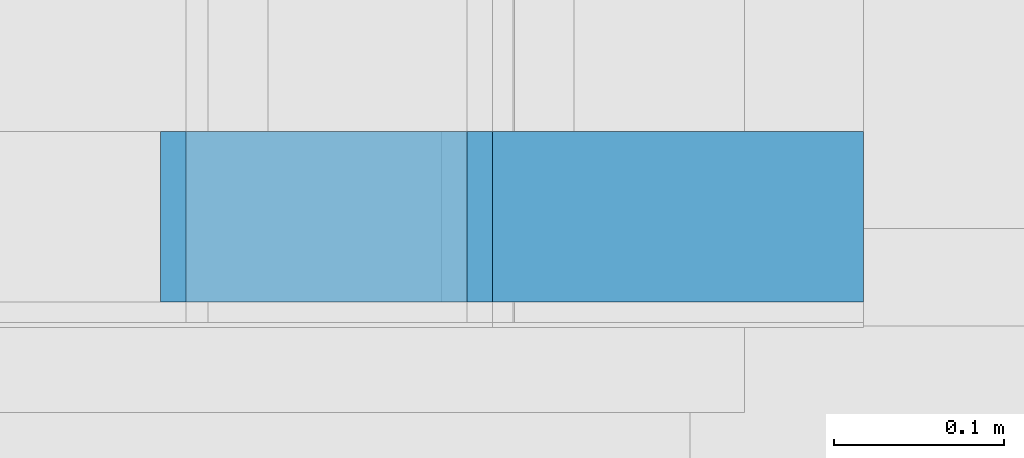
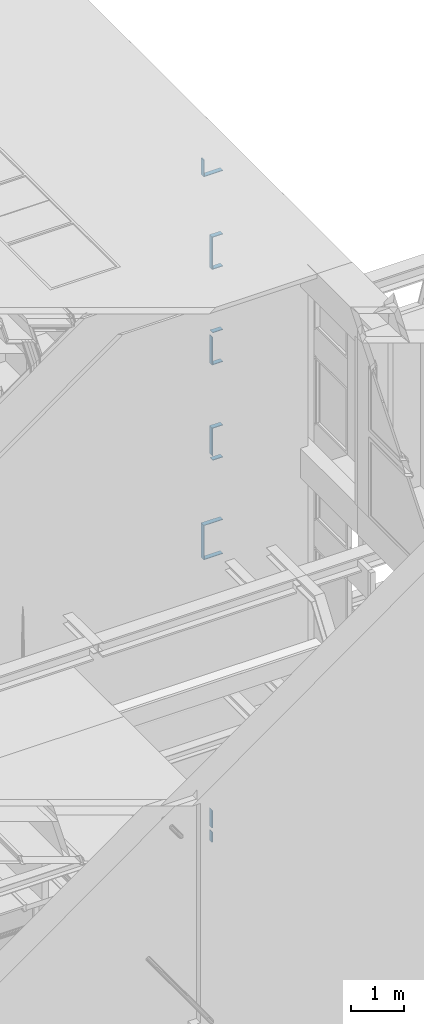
# One storey, part 226 of 583: 16 building element parts, 15 elements without a shape of their own.
"""IFC2X3 building model written with IfcOpenShell, lengths in metres."""

from ifc_helpers import new_model, entity, si_unit, converted_unit, derived_unit, money_unit, direction, frame, frame_2d, origin_with_axes, place, context, subcontext, project, spatial, polyline, rectangle, outline, extrude, material, type_object, element, aggregate, save


model = new_model("IFC2X3")

# Units and contexts
model_context = context("Model", 3, precision=1e-05, world=origin_with_axes(), true_north=direction((0.0, 1.0)))
body_context = subcontext(model_context, "Body", "Model", "MODEL_VIEW", scale=1.0)
ifc_project = project(units=[si_unit("LENGTHUNIT", "METRE"), si_unit("AREAUNIT", "SQUARE_METRE"), si_unit("VOLUMEUNIT", "CUBIC_METRE"), si_unit("ABSORBEDDOSEUNIT", "GRAY"), si_unit("AMOUNTOFSUBSTANCEUNIT", "MOLE"), si_unit("DOSEEQUIVALENTUNIT", "SIEVERT"), si_unit("ELECTRICCAPACITANCEUNIT", "FARAD"), si_unit("ELECTRICCHARGEUNIT", "COULOMB"), si_unit("ELECTRICCONDUCTANCEUNIT", "SIEMENS"), si_unit("ELECTRICCURRENTUNIT", "AMPERE"), si_unit("ELECTRICRESISTANCEUNIT", "OHM"), si_unit("ELECTRICVOLTAGEUNIT", "VOLT"), si_unit("ENERGYUNIT", "JOULE"), si_unit("FORCEUNIT", "NEWTON"), si_unit("FREQUENCYUNIT", "HERTZ"), si_unit("ILLUMINANCEUNIT", "LUX"), si_unit("INDUCTANCEUNIT", "HENRY"), si_unit("LUMINOUSFLUXUNIT", "LUMEN"), si_unit("LUMINOUSINTENSITYUNIT", "CANDELA"), si_unit("MAGNETICFLUXDENSITYUNIT", "TESLA"), si_unit("MAGNETICFLUXUNIT", "WEBER"), si_unit("MASSUNIT", "GRAM"), converted_unit("PLANEANGLEUNIT", "degree", entity("IfcReal", 0.0174532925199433), si_unit("PLANEANGLEUNIT", "RADIAN"), dimensions=[0, 0, 0, 0, 0, 0, 0]), si_unit("POWERUNIT", "WATT"), si_unit("PRESSUREUNIT", "PASCAL"), si_unit("RADIOACTIVITYUNIT", "BECQUEREL"), si_unit("SOLIDANGLEUNIT", "STERADIAN"), si_unit("THERMODYNAMICTEMPERATUREUNIT", "KELVIN"), si_unit("TIMEUNIT", "SECOND"), derived_unit("ACCELERATIONUNIT", [(si_unit("LENGTHUNIT", "METRE"), 1), (si_unit("TIMEUNIT", "SECOND"), -2)]), derived_unit("ANGULARVELOCITYUNIT", [(converted_unit("PLANEANGLEUNIT", "degree", entity("IfcReal", 0.0174532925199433), si_unit("PLANEANGLEUNIT", "RADIAN"), dimensions=[0, 0, 0, 0, 0, 0, 0]), 1), (si_unit("TIMEUNIT", "SECOND"), -1)]), derived_unit("CURVATUREUNIT", [(converted_unit("PLANEANGLEUNIT", "degree", entity("IfcReal", 0.0174532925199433), si_unit("PLANEANGLEUNIT", "RADIAN"), dimensions=[0, 0, 0, 0, 0, 0, 0]), 1), (si_unit("LENGTHUNIT", "METRE"), -1)]), derived_unit("DYNAMICVISCOSITYUNIT", [(si_unit("PRESSUREUNIT", "PASCAL"), 1), (si_unit("TIMEUNIT", "SECOND"), 1)]), derived_unit("HEATFLUXDENSITYUNIT", [(si_unit("POWERUNIT", "WATT"), 1), (si_unit("LENGTHUNIT", "METRE"), -2)]), derived_unit("HEATINGVALUEUNIT", [(si_unit("ENERGYUNIT", "JOULE"), 1), (si_unit("MASSUNIT", "GRAM"), -1)]), derived_unit("INTEGERCOUNTRATEUNIT", [(si_unit("TIMEUNIT", "SECOND"), -1)]), derived_unit("IONCONCENTRATIONUNIT", [(si_unit("MASSUNIT", "GRAM"), 1), (si_unit("VOLUMEUNIT", "CUBIC_METRE"), -1)]), derived_unit("ISOTHERMALMOISTURECAPACITYUNIT", [(si_unit("VOLUMEUNIT", "CUBIC_METRE"), 1), (si_unit("MASSUNIT", "GRAM"), -1)]), derived_unit("KINEMATICVISCOSITYUNIT", [(si_unit("AREAUNIT", "SQUARE_METRE"), 1), (si_unit("TIMEUNIT", "SECOND"), -1)]), derived_unit("LINEARFORCEUNIT", [(si_unit("FORCEUNIT", "NEWTON"), 1), (si_unit("LENGTHUNIT", "METRE"), -1)]), derived_unit("LINEARMOMENTUNIT", [(si_unit("FORCEUNIT", "NEWTON"), 1), (si_unit("LENGTHUNIT", "METRE"), -1)]), derived_unit("LINEARSTIFFNESSUNIT", [(si_unit("FORCEUNIT", "NEWTON"), 1), (si_unit("LENGTHUNIT", "METRE"), -1)]), derived_unit("LINEARVELOCITYUNIT", [(si_unit("LENGTHUNIT", "METRE"), 1), (si_unit("TIMEUNIT", "SECOND"), -1)]), derived_unit("LUMINOUSINTENSITYDISTRIBUTIONUNIT", [(si_unit("LUMINOUSINTENSITYUNIT", "CANDELA"), 1), (si_unit("LUMINOUSFLUXUNIT", "LUMEN"), -1)]), derived_unit("MASSDENSITYUNIT", [(si_unit("MASSUNIT", "GRAM"), 1), (si_unit("VOLUMEUNIT", "CUBIC_METRE"), -1)]), derived_unit("MASSFLOWRATEUNIT", [(si_unit("MASSUNIT", "GRAM"), 1), (si_unit("TIMEUNIT", "SECOND"), -1)]), derived_unit("MASSPERLENGTHUNIT", [(si_unit("MASSUNIT", "GRAM"), 1), (si_unit("LENGTHUNIT", "METRE"), -1)]), derived_unit("MODULUSOFELASTICITYUNIT", [(si_unit("FORCEUNIT", "NEWTON"), 1), (si_unit("AREAUNIT", "SQUARE_METRE"), -1)]), derived_unit("MODULUSOFLINEARSUBGRADEREACTIONUNIT", [(si_unit("FORCEUNIT", "NEWTON"), 1), (si_unit("LENGTHUNIT", "METRE"), -2)]), derived_unit("MODULUSOFROTATIONALSUBGRADEREACTIONUNIT", [(si_unit("FORCEUNIT", "NEWTON"), 1), (si_unit("LENGTHUNIT", "METRE"), 1)]), derived_unit("MODULUSOFSUBGRADEREACTIONUNIT", [(si_unit("FORCEUNIT", "NEWTON"), 1), (si_unit("VOLUMEUNIT", "CUBIC_METRE"), -1)]), derived_unit("MOISTUREDIFFUSIVITYUNIT", [(si_unit("VOLUMEUNIT", "CUBIC_METRE"), 1), (si_unit("TIMEUNIT", "SECOND"), -1)]), derived_unit("MOLECULARWEIGHTUNIT", [(si_unit("MASSUNIT", "GRAM"), 1), (si_unit("AMOUNTOFSUBSTANCEUNIT", "MOLE"), -1)]), derived_unit("PLANARFORCEUNIT", [(si_unit("FORCEUNIT", "NEWTON"), 1), (si_unit("LENGTHUNIT", "METRE"), -2)]), derived_unit("ROTATIONALFREQUENCYUNIT", [(si_unit("TIMEUNIT", "SECOND"), -1)]), derived_unit("ROTATIONALMASSUNIT", [(si_unit("MASSUNIT", "GRAM"), 1), (si_unit("LENGTHUNIT", "METRE"), 2)]), derived_unit("ROTATIONALSTIFFNESSUNIT", [(si_unit("FORCEUNIT", "NEWTON"), 1), (si_unit("LENGTHUNIT", "METRE"), 1), (converted_unit("PLANEANGLEUNIT", "degree", entity("IfcReal", 0.0174532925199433), si_unit("PLANEANGLEUNIT", "RADIAN"), dimensions=[0, 0, 0, 0, 0, 0, 0]), -1)]), derived_unit("SECTIONAREAINTEGRALUNIT", [(si_unit("LENGTHUNIT", "METRE"), 5)]), derived_unit("SECTIONMODULUSUNIT", [(si_unit("LENGTHUNIT", "METRE"), 3)]), derived_unit("SHEARMODULUSUNIT", [(si_unit("FORCEUNIT", "NEWTON"), 1), (si_unit("AREAUNIT", "SQUARE_METRE"), -1)]), derived_unit("SOUNDPOWERUNIT", [(si_unit("ENERGYUNIT", "JOULE"), 1), (si_unit("TIMEUNIT", "SECOND"), -1)]), derived_unit("SPECIFICHEATCAPACITYUNIT", [(si_unit("FORCEUNIT", "NEWTON"), 1), (si_unit("MASSUNIT", "GRAM"), -1), (si_unit("THERMODYNAMICTEMPERATUREUNIT", "KELVIN"), -1)]), derived_unit("TEMPERATUREGRADIENTUNIT", [(si_unit("THERMODYNAMICTEMPERATUREUNIT", "KELVIN"), 1), (si_unit("LENGTHUNIT", "METRE"), -1)]), derived_unit("THERMALADMITTANCEUNIT", [(si_unit("POWERUNIT", "WATT"), 1), (si_unit("AREAUNIT", "SQUARE_METRE"), -1), (si_unit("THERMODYNAMICTEMPERATUREUNIT", "KELVIN"), -1)]), derived_unit("THERMALCONDUCTANCEUNIT", [(si_unit("POWERUNIT", "WATT"), 1), (si_unit("LENGTHUNIT", "METRE"), -1), (si_unit("THERMODYNAMICTEMPERATUREUNIT", "KELVIN"), -1)]), derived_unit("THERMALEXPANSIONCOEFFICIENTUNIT", [(si_unit("THERMODYNAMICTEMPERATUREUNIT", "KELVIN"), -1)]), derived_unit("THERMALRESISTANCEUNIT", [(si_unit("AREAUNIT", "SQUARE_METRE"), 1), (si_unit("POWERUNIT", "WATT"), -1)]), derived_unit("THERMALTRANSMITTANCEUNIT", [(si_unit("POWERUNIT", "WATT"), 1), (si_unit("AREAUNIT", "SQUARE_METRE"), -1), (si_unit("THERMODYNAMICTEMPERATUREUNIT", "KELVIN"), -1)]), derived_unit("TORQUEUNIT", [(si_unit("FORCEUNIT", "NEWTON"), 1), (si_unit("LENGTHUNIT", "METRE"), 1)]), derived_unit("VAPORPERMEABILITYUNIT", [(si_unit("MASSUNIT", "GRAM"), 1), (si_unit("TIMEUNIT", "SECOND"), -1)]), derived_unit("VOLUMETRICFLOWRATEUNIT", [(si_unit("VOLUMEUNIT", "CUBIC_METRE"), 1), (si_unit("TIMEUNIT", "SECOND"), -1)]), derived_unit("WARPINGCONSTANTUNIT", [(si_unit("LENGTHUNIT", "METRE"), 6)]), derived_unit("WARPINGMOMENTUNIT", [(si_unit("FORCEUNIT", "NEWTON"), 1), (si_unit("LENGTHUNIT", "METRE"), 2)]), money_unit("GBP")], contexts=[model_context])

# Site, building, storey
site_placement = place(None, origin_with_axes())
site = spatial("IfcSite", under=ifc_project, at=site_placement, Name="Site", CompositionType="ELEMENT")
building_placement = place(site_placement, origin_with_axes())
building = spatial("IfcBuilding", under=site, at=building_placement, Name="Building01", CompositionType="ELEMENT")
storey_placement = place(building_placement, frame((0.0, 0.0, 20.78), z_axis=(0.0, 0.0, 1.0), x_axis=(1.0, 0.0, 0.0)))
storey = spatial("IfcBuildingStorey", under=building, at=storey_placement, Name="RL", CompositionType="ELEMENT", Elevation=20.78)

# Wall, building element part
wall_type = type_object("IfcWallType", Name="SHE_A-Walls_Type06d_ExternalWallInsulation_48mm", PredefinedType="NOTDEFINED")
wall_1_placement = place(storey_placement, frame((14.8, 8.64, -2.56), z_axis=(0.0, 1.0, 0.0), x_axis=(-1.0, 0.0, 0.0)))
wall_1 = element("IfcWall", 1, at=wall_1_placement, inside=storey, type_object=wall_type, Name="6D", ObjectType="SHE_A-Walls_Type06d_ExternalWallInsulation_48mm")
ifc_material = material(Name="A_BSUK_Walls_Timber")
building_element_part_1_placement = place(wall_1_placement, origin_with_axes())
building_element_part_1 = element("IfcBuildingElementPart", 2, at=building_element_part_1_placement, material=ifc_material, Name="2", context=body_context, shape_type="SweptSolid", body=[
    extrude(outline(polyline([(0.413, 0.063), (0.0, 0.063), (0.0, 0.048), (0.398, 0.048), (0.413, 0.063)])), frame((0.0, 0.0, 0.015), z_axis=(0.0, 0.0, 1.0), x_axis=(1.0, 0.0, 0.0)), (0.0, 0.0, 1.0), 0.1),
])
aggregate(wall_1, [building_element_part_1])

wall_2_placement = place(storey_placement, frame((14.45, 8.64, -2.56), z_axis=(0.0, 1.0, 0.0), x_axis=(0.0, 0.0, -1.0)))
wall_2 = element("IfcWall", 3, at=wall_2_placement, inside=storey, type_object=wall_type, Name="6D", ObjectType="SHE_A-Walls_Type06d_ExternalWallInsulation_48mm")
building_element_part_2_placement = place(wall_2_placement, origin_with_axes())
building_element_part_2 = element("IfcBuildingElementPart", 4, at=building_element_part_2_placement, material=ifc_material, Name="2", context=body_context, shape_type="SweptSolid", body=[
    extrude(outline(polyline([(0.733, 0.063), (-0.063, 0.063), (-0.048, 0.048), (0.718, 0.048), (0.733, 0.063)])), frame((0.0, 0.0, 0.015), z_axis=(0.0, 0.0, 1.0), x_axis=(1.0, 0.0, 0.0)), (0.0, 0.0, 1.0), 0.1),
])
aggregate(wall_2, [building_element_part_2])

wall_3_placement = place(storey_placement, frame((14.45, 8.64, -3.23), z_axis=(0.0, 1.0, 0.0), x_axis=(1.0, 0.0, 0.0)))
wall_3 = element("IfcWall", 5, at=wall_3_placement, inside=storey, type_object=wall_type, Name="6D", ObjectType="SHE_A-Walls_Type06d_ExternalWallInsulation_48mm")
building_element_part_3_placement = place(wall_3_placement, origin_with_axes())
building_element_part_3 = element("IfcBuildingElementPart", 6, at=building_element_part_3_placement, material=ifc_material, Name="2", context=body_context, shape_type="SweptSolid", body=[
    extrude(outline(polyline([(-0.063, 0.063), (-0.048, 0.048), (0.35, 0.048), (0.35, 0.063), (-0.063, 0.063)])), frame((0.0, 0.0, 0.015), z_axis=(0.0, 0.0, 1.0), x_axis=(1.0, 0.0, 0.0)), (0.0, 0.0, 1.0), 0.1),
])
aggregate(wall_3, [building_element_part_3])

wall_4_placement = place(storey_placement, frame((14.8, 8.64, -0.393), z_axis=(0.0, 1.0, 0.0), x_axis=(-1.0, 0.0, 0.0)))
wall_4 = element("IfcWall", 7, at=wall_4_placement, inside=storey, type_object=wall_type, Name="6D", ObjectType="SHE_A-Walls_Type06d_ExternalWallInsulation_48mm")
building_element_part_4_placement = place(wall_4_placement, origin_with_axes())
building_element_part_4 = element("IfcBuildingElementPart", 8, at=building_element_part_4_placement, material=ifc_material, Name="2", context=body_context, shape_type="SweptSolid", body=[
    extrude(outline(polyline([(0.233, 0.063), (0.0, 0.063), (0.0, 0.048), (0.218, 0.048), (0.233, 0.063)])), frame((0.0, 0.0, 0.015), z_axis=(0.0, 0.0, 1.0), x_axis=(1.0, 0.0, 0.0)), (0.0, 0.0, 1.0), 0.1),
])
aggregate(wall_4, [building_element_part_4])

wall_5_placement = place(storey_placement, frame((14.63, 8.64, -0.393), z_axis=(0.0, 1.0, 0.0), x_axis=(0.0, 0.0, -1.0)))
wall_5 = element("IfcWall", 9, at=wall_5_placement, inside=storey, type_object=wall_type, Name="6D", ObjectType="SHE_A-Walls_Type06d_ExternalWallInsulation_48mm")
building_element_part_5_placement = place(wall_5_placement, origin_with_axes())
building_element_part_5 = element("IfcBuildingElementPart", 10, at=building_element_part_5_placement, material=ifc_material, Name="2", context=body_context, shape_type="SweptSolid", body=[
    extrude(outline(polyline([(0.577, 0.063), (-0.063, 0.063), (-0.048, 0.048), (0.577, 0.048), (0.577, 0.063)])), frame((0.0, 0.0, 0.015), z_axis=(0.0, 0.0, 1.0), x_axis=(1.0, 0.0, 0.0)), (0.0, 0.0, 1.0), 0.1),
])
aggregate(wall_5, [building_element_part_5])

wall_6_placement = place(storey_placement, frame((14.63, 8.64, -1.017), z_axis=(0.0, 1.0, 0.0), x_axis=(1.0, 0.0, 0.0)))
wall_6 = element("IfcWall", 11, at=wall_6_placement, inside=storey, type_object=wall_type, Name="6D", ObjectType="SHE_A-Walls_Type06d_ExternalWallInsulation_48mm")
building_element_part_6_placement = place(wall_6_placement, origin_with_axes())
building_element_part_6 = element("IfcBuildingElementPart", 12, at=building_element_part_6_placement, material=ifc_material, Name="2", context=body_context, shape_type="SweptSolid", body=[
    extrude(rectangle(XDim=0.218, YDim=0.015, at=frame_2d((0.061, 0.0555), x_axis=(1.0, 0.0))), frame((0.0, 0.0, 0.015), z_axis=(0.0, 0.0, 1.0), x_axis=(1.0, 0.0, 0.0)), (0.0, 0.0, 1.0), 0.1),
])
aggregate(wall_6, [building_element_part_6])

wall_7_placement = place(storey_placement, frame((14.8, 8.64, 1.797), z_axis=(0.0, 1.0, 0.0), x_axis=(-1.0, 0.0, 0.0)))
wall_7 = element("IfcWall", 13, at=wall_7_placement, inside=storey, type_object=wall_type, Name="6D", ObjectType="SHE_A-Walls_Type06d_ExternalWallInsulation_48mm")
building_element_part_7_placement = place(wall_7_placement, origin_with_axes())
building_element_part_7 = element("IfcBuildingElementPart", 14, at=building_element_part_7_placement, material=ifc_material, Name="2", context=body_context, shape_type="SweptSolid", body=[
    extrude(rectangle(XDim=0.218, YDim=0.015, at=frame_2d((0.109, 0.0555), x_axis=(1.0, 0.0))), frame((0.0, 0.0, 0.015), z_axis=(0.0, 0.0, 1.0), x_axis=(1.0, 0.0, 0.0)), (0.0, 0.0, 1.0), 0.1),
])
aggregate(wall_7, [building_element_part_7])

wall_8_placement = place(storey_placement, frame((14.63, 8.64, 1.797), z_axis=(0.0, 1.0, 0.0), x_axis=(0.0, 0.0, -1.0)))
wall_8 = element("IfcWall", 15, at=wall_8_placement, inside=storey, type_object=wall_type, Name="6D", ObjectType="SHE_A-Walls_Type06d_ExternalWallInsulation_48mm")
building_element_part_8_placement = place(wall_8_placement, origin_with_axes())
building_element_part_8 = element("IfcBuildingElementPart", 16, at=building_element_part_8_placement, material=ifc_material, Name="2", context=body_context, shape_type="SweptSolid", body=[
    extrude(outline(polyline([(0.687, 0.063), (0.047, 0.063), (0.047, 0.048), (0.672, 0.048), (0.687, 0.063)])), frame((0.0, 0.0, 0.015), z_axis=(0.0, 0.0, 1.0), x_axis=(1.0, 0.0, 0.0)), (0.0, 0.0, 1.0), 0.1),
])
aggregate(wall_8, [building_element_part_8])

wall_9_placement = place(storey_placement, frame((14.63, 8.64, 1.173), z_axis=(0.0, 1.0, 0.0), x_axis=(1.0, 0.0, 0.0)))
wall_9 = element("IfcWall", 17, at=wall_9_placement, inside=storey, type_object=wall_type, Name="6D", ObjectType="SHE_A-Walls_Type06d_ExternalWallInsulation_48mm")
building_element_part_9_placement = place(wall_9_placement, origin_with_axes())
building_element_part_9 = element("IfcBuildingElementPart", 18, at=building_element_part_9_placement, material=ifc_material, Name="2", context=body_context, shape_type="SweptSolid", body=[
    extrude(outline(polyline([(-0.063, 0.063), (-0.048, 0.048), (0.17, 0.048), (0.17, 0.063), (-0.063, 0.063)])), frame((0.0, 0.0, 0.015), z_axis=(0.0, 0.0, 1.0), x_axis=(1.0, 0.0, 0.0)), (0.0, 0.0, 1.0), 0.1),
])
aggregate(wall_9, [building_element_part_9])

wall_10_placement = place(storey_placement, frame((14.8, 8.64, 3.987), z_axis=(0.0, 1.0, 0.0), x_axis=(-1.0, 0.0, 0.0)))
wall_10 = element("IfcWall", 19, at=wall_10_placement, inside=storey, type_object=wall_type, Name="6D", ObjectType="SHE_A-Walls_Type06d_ExternalWallInsulation_48mm")
building_element_part_10_placement = place(wall_10_placement, origin_with_axes())
building_element_part_10 = element("IfcBuildingElementPart", 20, at=building_element_part_10_placement, material=ifc_material, Name="2", context=body_context, shape_type="SweptSolid", body=[
    extrude(outline(polyline([(0.233, 0.063), (0.0, 0.063), (0.0, 0.048), (0.218, 0.048), (0.233, 0.063)])), frame((0.0, 0.0, 0.015), z_axis=(0.0, 0.0, 1.0), x_axis=(1.0, 0.0, 0.0)), (0.0, 0.0, 1.0), 0.1),
])
aggregate(wall_10, [building_element_part_10])

wall_11_placement = place(storey_placement, frame((14.63, 8.64, 3.987), z_axis=(0.0, 1.0, 0.0), x_axis=(0.0, 0.0, -1.0)))
wall_11 = element("IfcWall", 21, at=wall_11_placement, inside=storey, type_object=wall_type, Name="6D", ObjectType="SHE_A-Walls_Type06d_ExternalWallInsulation_48mm")
building_element_part_11_placement = place(wall_11_placement, origin_with_axes())
building_element_part_11 = element("IfcBuildingElementPart", 22, at=building_element_part_11_placement, material=ifc_material, Name="2", context=body_context, shape_type="SweptSolid", body=[
    extrude(outline(polyline([(0.687, 0.063), (-0.063, 0.063), (-0.048, 0.048), (0.672, 0.048), (0.687, 0.063)])), frame((0.0, 0.0, 0.015), z_axis=(0.0, 0.0, 1.0), x_axis=(1.0, 0.0, 0.0)), (0.0, 0.0, 1.0), 0.1),
])
aggregate(wall_11, [building_element_part_11])

wall_12_placement = place(storey_placement, frame((14.63, 8.64, 3.363), z_axis=(0.0, 1.0, 0.0), x_axis=(1.0, 0.0, 0.0)))
wall_12 = element("IfcWall", 23, at=wall_12_placement, inside=storey, type_object=wall_type, Name="6D", ObjectType="SHE_A-Walls_Type06d_ExternalWallInsulation_48mm")
building_element_part_12_placement = place(wall_12_placement, origin_with_axes())
building_element_part_12 = element("IfcBuildingElementPart", 24, at=building_element_part_12_placement, material=ifc_material, Name="2", context=body_context, shape_type="SweptSolid", body=[
    extrude(outline(polyline([(-0.063, 0.063), (-0.048, 0.048), (0.17, 0.048), (0.17, 0.063), (-0.063, 0.063)])), frame((0.0, 0.0, 0.015), z_axis=(0.0, 0.0, 1.0), x_axis=(1.0, 0.0, 0.0)), (0.0, 0.0, 1.0), 0.1),
])
aggregate(wall_12, [building_element_part_12])

wall_13_placement = place(storey_placement, frame((14.45, 8.64, 5.93), z_axis=(0.0, 1.0, 0.0), x_axis=(0.0, 0.0, -1.0)))
wall_13 = element("IfcWall", 25, at=wall_13_placement, inside=storey, type_object=wall_type, Name="6D", ObjectType="SHE_A-Walls_Type06d_ExternalWallInsulation_48mm")
building_element_part_13_placement = place(wall_13_placement, origin_with_axes())
building_element_part_13 = element("IfcBuildingElementPart", 26, at=building_element_part_13_placement, material=ifc_material, Name="2", context=body_context, shape_type="SweptSolid", body=[
    extrude(outline(polyline([(0.44, 0.063), (0.063, 0.063), (0.048, 0.048), (0.425, 0.048), (0.44, 0.063)])), frame((0.0, 0.0, 0.015), z_axis=(0.0, 0.0, 1.0), x_axis=(1.0, 0.0, 0.0)), (0.0, 0.0, 1.0), 0.1),
])
aggregate(wall_13, [building_element_part_13])

wall_14_placement = place(storey_placement, frame((14.45, 8.64, 5.553), z_axis=(0.0, 1.0, 0.0), x_axis=(1.0, 0.0, 0.0)))
wall_14 = element("IfcWall", 27, at=wall_14_placement, inside=storey, type_object=wall_type, Name="6D", ObjectType="SHE_A-Walls_Type06d_ExternalWallInsulation_48mm")
building_element_part_14_placement = place(wall_14_placement, origin_with_axes())
building_element_part_14 = element("IfcBuildingElementPart", 28, at=building_element_part_14_placement, material=ifc_material, Name="2", context=body_context, shape_type="SweptSolid", body=[
    extrude(outline(polyline([(-0.063, 0.063), (-0.048, 0.048), (0.35, 0.048), (0.35, 0.063), (-0.063, 0.063)])), frame((0.0, 0.0, 0.015), z_axis=(0.0, 0.0, 1.0), x_axis=(1.0, 0.0, 0.0)), (0.0, 0.0, 1.0), 0.1),
])
aggregate(wall_14, [building_element_part_14])

# Wall, building element parts
wall_15_placement = place(storey_placement, frame((14.63, 8.64, -9.153), z_axis=(0.0, 1.0, 0.0), x_axis=(0.0, 0.0, -1.0)))
wall_15 = element("IfcWall", 29, at=wall_15_placement, inside=storey, type_object=wall_type, Name="6D", ObjectType="SHE_A-Walls_Type06d_ExternalWallInsulation_48mm")
placement = place(wall_15_placement, origin_with_axes())
building_element_part_15 = element("IfcBuildingElementPart", 30, at=placement, material=ifc_material, Name="2", context=body_context, shape_type="SweptSolid", body=[
    extrude(outline(polyline([(0.352, 0.063), (-0.063, 0.063), (-0.048, 0.048), (0.352, 0.048), (0.352, 0.063)])), frame((0.0, 0.0, 0.015), z_axis=(0.0, 0.0, 1.0), x_axis=(1.0, 0.0, 0.0)), (0.0, 0.0, 1.0), 0.1),
])
building_element_part_16 = element("IfcBuildingElementPart", 31, at=placement, material=ifc_material, Name="3", context=body_context, shape_type="SweptSolid", body=[
    extrude(outline(polyline([(0.687, 0.063), (0.447, 0.063), (0.447, 0.048), (0.672, 0.048), (0.687, 0.063)])), frame((0.0, 0.0, 0.015), z_axis=(0.0, 0.0, 1.0), x_axis=(1.0, 0.0, 0.0)), (0.0, 0.0, 1.0), 0.1),
])
aggregate(wall_15, [building_element_part_15, building_element_part_16])

save(model, "model.ifc")
